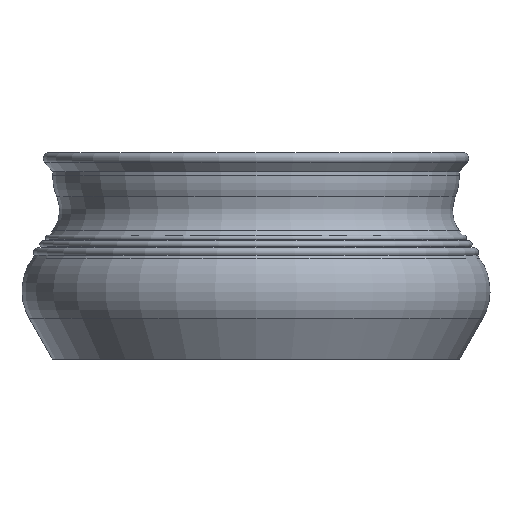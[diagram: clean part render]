
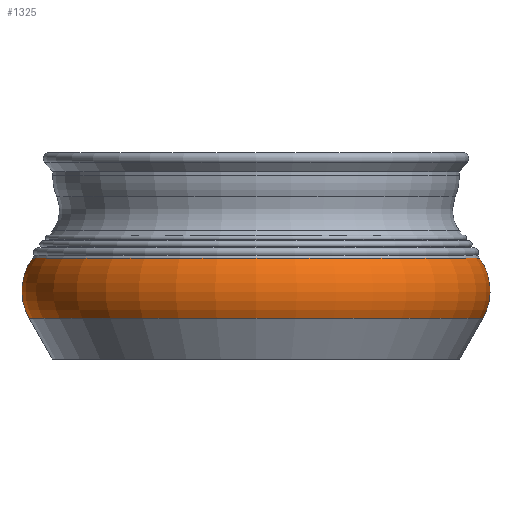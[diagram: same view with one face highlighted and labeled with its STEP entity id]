
A CAD part, front view. The second image highlights one B-rep face of the part: STEP entity #1325.
In plain terms, the highlighted toroidal (fillet/blend) face has major radius 151.136 mm and minor radius 46.864 mm.
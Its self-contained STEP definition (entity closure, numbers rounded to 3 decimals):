
#22=TOROIDAL_SURFACE('',#1505,151.136,46.864);
#166=FACE_OUTER_BOUND('',#284,.T.);
#284=EDGE_LOOP('',(#1208,#1209,#1210,#1211));
#526=CIRCLE('',#1467,191.841);
#549=CIRCLE('',#1506,188.901);
#550=CIRCLE('',#1507,46.864);
#653=VERTEX_POINT('',#2240);
#669=VERTEX_POINT('',#2303);
#818=EDGE_CURVE('',#653,#653,#526,.T.);
#849=EDGE_CURVE('',#669,#669,#549,.T.);
#850=EDGE_CURVE('',#669,#653,#550,.T.);
#1208=ORIENTED_EDGE('',*,*,#849,.F.);
#1209=ORIENTED_EDGE('',*,*,#850,.T.);
#1210=ORIENTED_EDGE('',*,*,#818,.T.);
#1211=ORIENTED_EDGE('',*,*,#850,.F.);
#1325=ADVANCED_FACE('',(#166),#22,.T.);
#1467=AXIS2_PLACEMENT_3D('',#2241,#1837,#1838);
#1505=AXIS2_PLACEMENT_3D('',#2302,#1921,#1922);
#1506=AXIS2_PLACEMENT_3D('',#2304,#1923,#1924);
#1507=AXIS2_PLACEMENT_3D('',#2305,#1925,#1926);
#1837=DIRECTION('center_axis',(0.,0.,1.));
#1838=DIRECTION('ref_axis',(1.,0.,0.));
#1921=DIRECTION('center_axis',(0.,0.,1.));
#1922=DIRECTION('ref_axis',(1.,0.,0.));
#1923=DIRECTION('center_axis',(0.,0.,1.));
#1924=DIRECTION('ref_axis',(1.,0.,0.));
#1925=DIRECTION('center_axis',(0.,-1.,0.));
#1926=DIRECTION('ref_axis',(-1.,0.,0.));
#2240=CARTESIAN_POINT('',(-191.841,0.,34.776));
#2241=CARTESIAN_POINT('Origin',(0.,0.,34.776));
#2302=CARTESIAN_POINT('Origin',(0.,0.,58.));
#2303=CARTESIAN_POINT('',(-188.901,0.,85.75));
#2304=CARTESIAN_POINT('Origin',(0.,0.,85.75));
#2305=CARTESIAN_POINT('Origin',(-151.136,0.,
58.));
